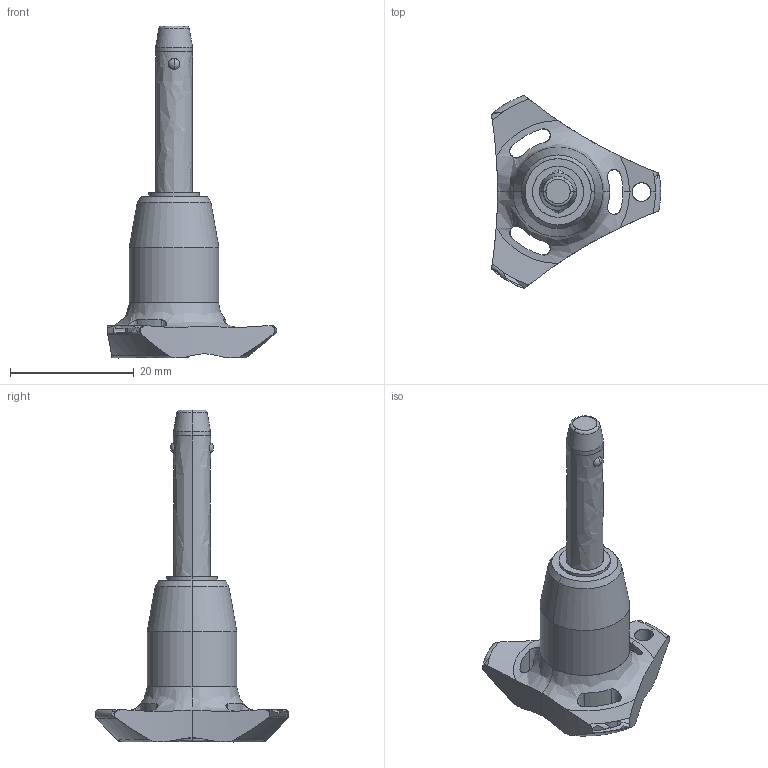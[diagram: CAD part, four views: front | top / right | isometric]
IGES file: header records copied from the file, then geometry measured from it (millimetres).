
Start section: SolidWorks IGES file using analytic representation for surfaces
Global section: file name: C:\Users\ianosborn\Desktop\33060_v2\33060.BK_v2_20240910_IGES\33060.W0824.igs; native system: SolidWorks 2019; preprocessor: SolidWorks 2019; author: IanOsborn; date: 240910.200655; units: millimetre
Bounding box: 27.4 x 31.31 x 53.7 mm (x, y, z)
Surface area: 2930 mm2 (no closed solid volume)
Topology: 0 solids, 0 shells, 69 faces, 1323 edges, 1304 vertices
Faces by surface type: revolution 52, bspline 17
